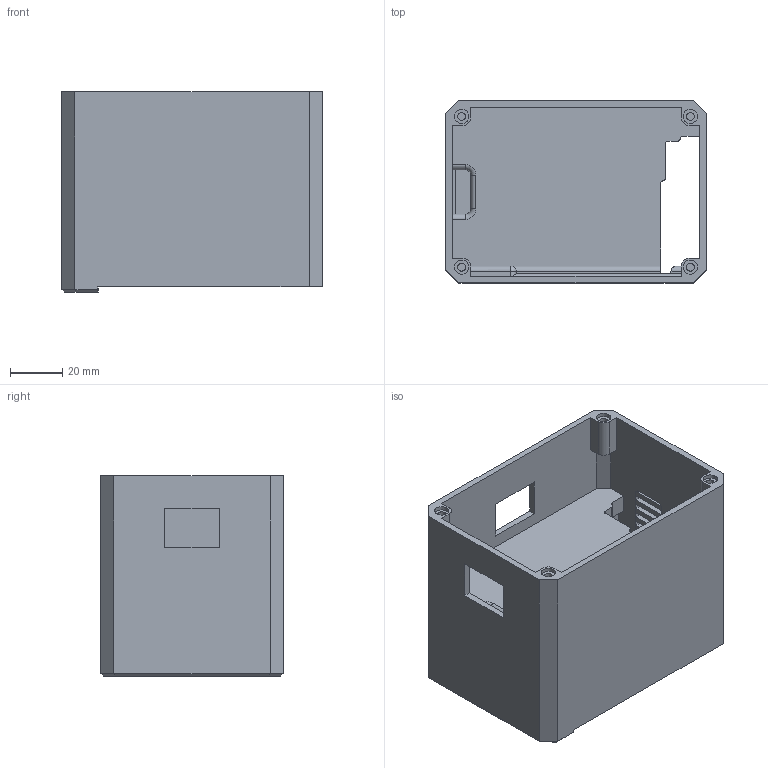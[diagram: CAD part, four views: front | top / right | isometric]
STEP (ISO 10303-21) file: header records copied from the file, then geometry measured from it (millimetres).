
FILE_DESCRIPTION(/* description */ (''),/* implementation_level */ '2;1');
FILE_NAME(/* name */ '[Body] IoT Box Suhu v2.stp',/* time_stamp */ '2025-03-15T21:01:04+07:00',/* author */ ('ASUS'),/* organization */ (''),/* preprocessor_version */ 'ST-DEVELOPER v19.2',/* originating_system */ 'Autodesk Inventor 2023',/* authorisation */ '');
FILE_SCHEMA (('AUTOMOTIVE_DESIGN { 1 0 10303 214 3 1 1 }'));
Length unit declared in the file: millimetre
Products named in the file (1): IoT Box v2
Bounding box: 100 x 70 x 77 mm (x, y, z)
Volume: 107391.7 mm3; surface area: 62856 mm2
Topology: 1 solids, 1 shells, 195 faces, 523 edges, 338 vertices
Faces by surface type: plane 145, cylinder 44, torus 4, bspline 1, sphere 1
Full cylindrical faces by diameter (mm): 3 x5, 5.5 x5
Entity records: 6120 total; most frequent: CARTESIAN_POINT 1083, ORIENTED_EDGE 1046, DIRECTION 1002, EDGE_CURVE 523, LINE 430, VECTOR 430, VERTEX_POINT 337, AXIS2_PLACEMENT_3D 286
